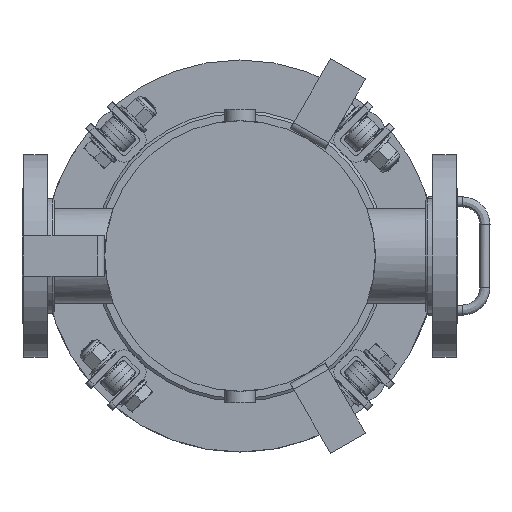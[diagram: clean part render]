
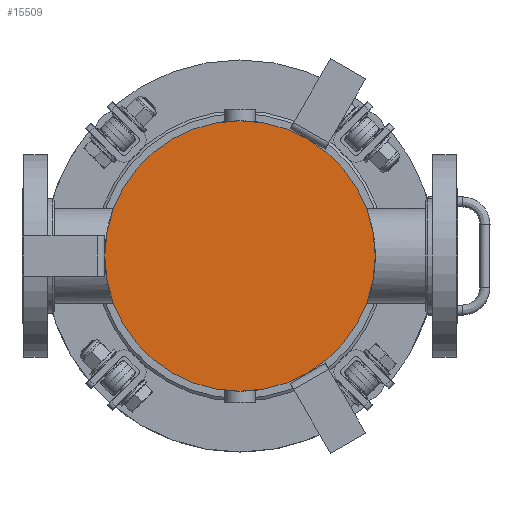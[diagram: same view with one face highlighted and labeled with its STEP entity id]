
A CAD part, front view. The second image highlights one B-rep face of the part: STEP entity #15509.
In plain terms, the highlighted planar face has unit normal (0, -1, 0).
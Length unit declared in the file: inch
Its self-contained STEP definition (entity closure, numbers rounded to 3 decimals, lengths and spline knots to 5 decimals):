
#1810 = AXIS2_PLACEMENT_3D ( 'NONE', #14401, #7007, #4565 ) ;
#1965 = EDGE_LOOP ( 'NONE', ( #15511 ) ) ;
#2204 = FACE_OUTER_BOUND ( 'NONE', #1965, .T. ) ;
#2861 = AXIS2_PLACEMENT_3D ( 'NONE', #6283, #6129, #4899 ) ;
#4565 = DIRECTION ( 'NONE',  ( 0., 0., 1. ) ) ;
#4899 = DIRECTION ( 'NONE',  ( 0., 0., 1. ) ) ;
#6129 = DIRECTION ( 'NONE',  ( 0., 1., 0. ) ) ;
#6264 = VERTEX_POINT ( 'NONE', #13913 ) ;
#6283 = CARTESIAN_POINT ( 'NONE',  ( 0., -24.125, 0. ) ) ;
#7007 = DIRECTION ( 'NONE',  ( 0., 1., 0. ) ) ;
#9214 = EDGE_CURVE ( 'NONE', #6264, #6264, #14803, .T. ) ;
#10986 = PLANE ( 'NONE',  #1810 ) ;
#13913 = CARTESIAN_POINT ( 'NONE',  ( 0., -24.125, 5. ) ) ;
#14401 = CARTESIAN_POINT ( 'NONE',  ( 0., -24.125, 0. ) ) ;
#14803 = CIRCLE ( 'NONE', #2861, 5. ) ;
#15509 = ADVANCED_FACE ( 'NONE', ( #2204 ), #10986, .F. ) ;
#15511 = ORIENTED_EDGE ( 'NONE', *, *, #9214, .F. ) ;
